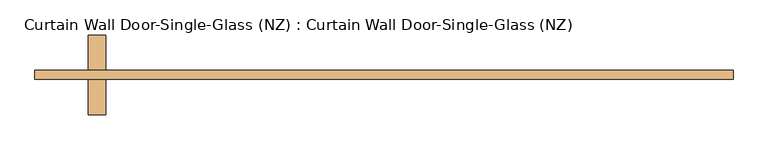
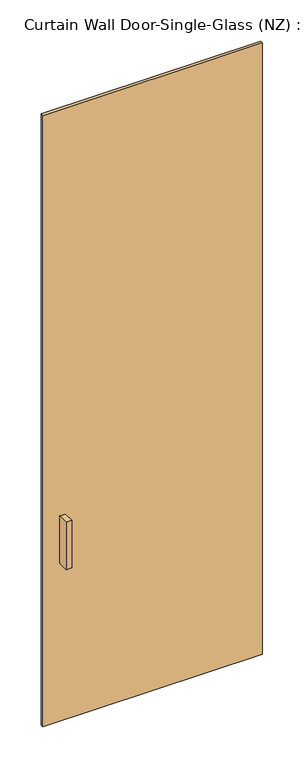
"""IFC4 building model written with IfcOpenShell, lengths in millimetres: door geometry, Curtain Wall Door-Single-Glass (NZ) : Curtain Wall Door-Single-Glass (NZ)."""

import ifcopenshell
import ifcopenshell.guid

model = None  # the IFC model being written
_history = None  # IfcOwnerHistory: only IFC2X3 demands one
_inside = {}  # id of a spatial element -> (the spatial element, [elements in it])
_under = {}  # id of a project, library or spatial element -> (it, [spatial elements below it])
_declared = {}  # id of a project -> (the project, [libraries it declares])
_typed = {}  # id of a type object -> (the type object, [elements of that type])
_made_of = {}  # id of a material, layer set ... -> (it, [elements and type objects made of it])


def new_model(schema):
    """Start an empty IFC model of exactly this schema.

    Asked for "IFC4X3", IfcOpenShell would pick the latest addendum, in which some entities
    have other attributes; the version numbers below select the first issue.
    IFC2X3 requires an IfcOwnerHistory on every rooted entity: one is made here for all.
    """
    global model, _history
    if schema == "IFC4X3":
        model = ifcopenshell.file(schema_version=(4, 3, 0, 0))
    else:
        model = ifcopenshell.file(schema=schema)
    _inside.clear()
    _under.clear()
    _declared.clear()
    _typed.clear()
    _made_of.clear()
    _history = None
    if model.schema == "IFC2X3":
        org = make("IfcOrganization", Name="unknown")
        user = make(
            "IfcPersonAndOrganization",
            ThePerson=make("IfcPerson", FamilyName="unknown"),
            TheOrganization=org,
        )
        app = make(
            "IfcApplication",
            ApplicationDeveloper=org,
            Version="unknown",
            ApplicationFullName="unknown",
            ApplicationIdentifier="unknown",
        )
        _history = make(
            "IfcOwnerHistory",
            OwningUser=user,
            OwningApplication=app,
            ChangeAction="ADDED",
            CreationDate=0,
        )
    return model


def make(cls, **values):
    """One entity of the class cls with the attributes given. An attribute that is None is left unset."""
    return model.create_entity(
        cls, **{name: value for name, value in values.items() if value is not None}
    )


def rooted(cls, **values):
    """An entity with a GlobalId (a new one), such as an element, a storey or a relation."""
    return make(cls, GlobalId=ifcopenshell.guid.new(), OwnerHistory=_history, **values)


def si_unit(unit_type, name, prefix=None):
    """IfcSIUnit, for example si_unit("LENGTHUNIT", "METRE", prefix="MILLI")."""
    return make("IfcSIUnit", UnitType=unit_type, Prefix=prefix, Name=name)


def assignment(units):
    """IfcUnitAssignment: the units of a project."""
    return None if units is None else make("IfcUnitAssignment", Units=units)


def point(xyz):
    """IfcCartesianPoint."""
    return None if xyz is None else make("IfcCartesianPoint", Coordinates=xyz)


def direction(xyz):
    """IfcDirection."""
    return None if xyz is None else make("IfcDirection", DirectionRatios=xyz)


def frame(location, z_axis=None, x_axis=None):
    """IfcAxis2Placement3D, a coordinate frame: its origin and axes. An axis left out is left unset."""
    return make(
        "IfcAxis2Placement3D",
        Location=point(location),
        Axis=direction(z_axis),
        RefDirection=direction(x_axis),
    )


def origin():
    """The frame at (0, 0, 0) with its axes left unset."""
    return frame((0.0, 0.0, 0.0))


def origin_with_axes():
    """The frame at (0, 0, 0) with the z axis (0, 0, 1) and the x axis (1, 0, 0) written out."""
    return frame((0.0, 0.0, 0.0), z_axis=(0.0, 0.0, 1.0), x_axis=(1.0, 0.0, 0.0))


def place(relative_to, where):
    """IfcLocalPlacement: puts the frame where relative to a parent placement (None: the world)."""
    return make(
        "IfcLocalPlacement", PlacementRelTo=relative_to, RelativePlacement=where
    )


def context(
    kind, dimensions, precision=None, world=None, true_north=None, identifier=None
):
    """IfcGeometricRepresentationContext, for example the 3D "Model" context."""
    return make(
        "IfcGeometricRepresentationContext",
        ContextIdentifier=identifier,
        ContextType=kind,
        CoordinateSpaceDimension=dimensions,
        Precision=precision,
        WorldCoordinateSystem=world,
        TrueNorth=true_north,
    )


def project(units=None, contexts=None):
    """IfcProject with its units and contexts."""
    return rooted(
        "IfcProject",
        Name="project",
        RepresentationContexts=contexts,
        UnitsInContext=assignment(units),
    )


def spatial(cls, under=None, at=None, **own):
    """A site, building, storey or space (cls), placed at a placement, below another one or the project."""
    s = rooted(cls, ObjectPlacement=at, **own)
    if under is not None:
        _under.setdefault(under.id(), (under, []))[1].append(s)
    return s


def polyline(points):
    """IfcPolyline through the points."""
    return make("IfcPolyline", Points=[point(p) for p in points])


def outline(outer, holes=None, kind="AREA"):
    """IfcArbitraryClosedProfileDef: a profile drawn as a closed curve; with holes, ...WithVoids."""
    if holes is None:
        return make("IfcArbitraryClosedProfileDef", ProfileType=kind, OuterCurve=outer)
    return make(
        "IfcArbitraryProfileDefWithVoids",
        ProfileType=kind,
        OuterCurve=outer,
        InnerCurves=holes,
    )


def extrude(swept, where, along, depth):
    """IfcExtrudedAreaSolid: the profile swept, set in the frame where, extruded along a direction by depth."""
    return make(
        "IfcExtrudedAreaSolid",
        SweptArea=swept,
        Position=where,
        ExtrudedDirection=direction(along),
        Depth=depth,
    )


def shape(context_of_items, identifier, shape_type, items):
    """IfcShapeRepresentation: the items that make up one representation, for example the "Body"."""
    return make(
        "IfcShapeRepresentation",
        ContextOfItems=context_of_items,
        RepresentationIdentifier=identifier,
        RepresentationType=shape_type,
        Items=items,
    )


def source(mapping_origin, context_of_items, identifier, shape_type, items):
    """IfcRepresentationMap: a shape defined once, which mapped items show again and again."""
    return make(
        "IfcRepresentationMap",
        MappingOrigin=mapping_origin,
        MappedRepresentation=shape(context_of_items, identifier, shape_type, items),
    )


def transform(
    local_origin,
    x_axis=None,
    y_axis=None,
    z_axis=None,
    scale=None,
    scale2=None,
    scale3=None,
    uniform=True,
):
    """IfcCartesianTransformationOperator3D, or its non-uniform kind. x_axis, y_axis, z_axis: its Axis1, 2, 3."""
    if uniform:
        return make(
            "IfcCartesianTransformationOperator3D",
            Axis1=direction(x_axis),
            Axis2=direction(y_axis),
            LocalOrigin=point(local_origin),
            Scale=scale,
            Axis3=direction(z_axis),
        )
    return make(
        "IfcCartesianTransformationOperator3DnonUniform",
        Axis1=direction(x_axis),
        Axis2=direction(y_axis),
        LocalOrigin=point(local_origin),
        Scale=scale,
        Axis3=direction(z_axis),
        Scale2=scale2,
        Scale3=scale3,
    )


def mapped(mapping_source, mapping_target):
    """IfcMappedItem: shows the shape of a source again, moved by a transform."""
    return make(
        "IfcMappedItem", MappingSource=mapping_source, MappingTarget=mapping_target
    )


def made_of(thing, what):
    """Note that an element or type object is made of a material, layer set ...; save() writes the relation."""
    if what is not None:
        _made_of.setdefault(what.id(), (what, []))[1].append(thing)
    return thing


def element(
    cls,
    number,
    at=None,
    inside=None,
    cuts=None,
    type_object=None,
    material=None,
    context=None,
    identifier="Body",
    shape_type=None,
    held_by="IfcProductDefinitionShape",
    body=None,
    shapes=None,
    **own,
):
    """One element of the class cls, such as IfcWall. Its Tag is "e" and its number.

    at: its placement. inside: the storey or other place that contains it. cuts: it is an
    opening in that element (IfcRelVoidsElement). A single representation is given by context,
    identifier, shape_type and body (its items); several are given by shapes. held_by: the class
    of the entity that holds the representations. save() writes the other relations.
    """
    e = rooted(cls, Tag="e%d" % number, ObjectPlacement=at, **own)
    if body is not None:
        shapes = [shape(context, identifier, shape_type, body)]
    if shapes is not None:
        e.Representation = make(held_by, Representations=shapes)
    if inside is not None:
        _inside.setdefault(inside.id(), (inside, []))[1].append(e)
    if cuts is not None:
        rooted(
            "IfcRelVoidsElement", RelatingBuildingElement=cuts, RelatedOpeningElement=e
        )
    if type_object is not None:
        _typed.setdefault(type_object.id(), (type_object, []))[1].append(e)
    return made_of(e, material)


def aggregate(whole, parts):
    """IfcRelAggregates: a whole, such as a stair, and the parts it consists of."""
    return rooted("IfcRelAggregates", RelatingObject=whole, RelatedObjects=parts)


def save(model, path):
    """Write the relations noted so far, then the file.

    IfcRelAggregates (storeys below a building ...), IfcRelContainedInSpatialStructure (elements
    in a storey), IfcRelDefinesByType, IfcRelAssociatesMaterial and IfcRelDeclares: one each for
    every whole, place, type object, material and project.
    """
    for whole, parts in _under.values():
        aggregate(whole, parts)
    for where, things in _inside.values():
        rooted(
            "IfcRelContainedInSpatialStructure",
            RelatedElements=things,
            RelatingStructure=where,
        )
    for kind, things in _typed.values():
        rooted("IfcRelDefinesByType", RelatedObjects=things, RelatingType=kind)
    for what, things in _made_of.values():
        rooted("IfcRelAssociatesMaterial", RelatedObjects=things, RelatingMaterial=what)
    for by, libraries in _declared.values():
        rooted("IfcRelDeclares", RelatingContext=by, RelatedDefinitions=libraries)
    model.write(path)


def curtain_wall_door_single_glass_nz_curtain_wall_door_single_d322cbbd(model_context):
    return source(origin(), model_context, "Body", "SweptSolid", [
        extrude(outline(polyline([(500.75, -51.0), (-500.75, -51.0), (-500.75, -38.3), (500.75, -38.3), (500.75, -51.0)])), origin_with_axes(), (0.0, 0.0, 1.0), 2950.0),
        extrude(outline(polyline([(-424.55, -101.8), (-424.55, -51.0), (-399.15, -51.0), (-399.15, -101.8), (-424.55, -101.8)])), frame((0.0, 0.0, 762.0), z_axis=(0.0, 0.0, 1.0), x_axis=(1.0, 0.0, 0.0)), (0.0, 0.0, 1.0), 228.6),
        extrude(outline(polyline([(-399.15, 12.5), (-399.15, -38.3), (-424.55, -38.3), (-424.55, 12.5), (-399.15, 12.5)])), frame((0.0, 0.0, 762.0), z_axis=(0.0, 0.0, 1.0), x_axis=(1.0, 0.0, 0.0)), (0.0, 0.0, 1.0), 228.6),
    ])


if __name__ == "__main__":
    model = new_model("IFC4")
    model_context = context("Model", 3, world=origin())
    ifc_project = project(units=[si_unit("LENGTHUNIT", "METRE", prefix="MILLI")], contexts=[model_context])
    site = spatial("IfcSite", under=ifc_project)
    building = spatial("IfcBuilding", under=site)
    placement = place(None, origin())
    curtain_wall_door_single_glass_nz_curtain_wall_door_single_shape = curtain_wall_door_single_glass_nz_curtain_wall_door_single_d322cbbd(model_context)
    element("IfcDoor", 1, ObjectType="Curtain Wall Door-Single-Glass (NZ) : Curtain Wall Door-Single-Glass (NZ)", at=placement, inside=building, context=model_context, shape_type="MappedRepresentation", body=[
        mapped(curtain_wall_door_single_glass_nz_curtain_wall_door_single_shape, transform((0.0, 0.0, 0.0), x_axis=(1.0, 0.0, 0.0), y_axis=(0.0, 1.0, 0.0), z_axis=(0.0, 0.0, 1.0))),
    ])
    save(model, "model.ifc")
